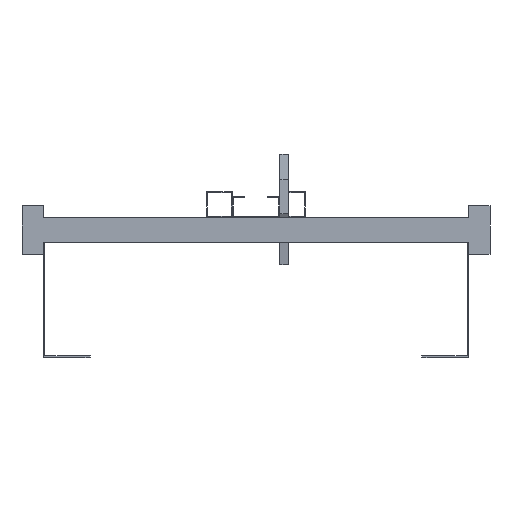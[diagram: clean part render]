
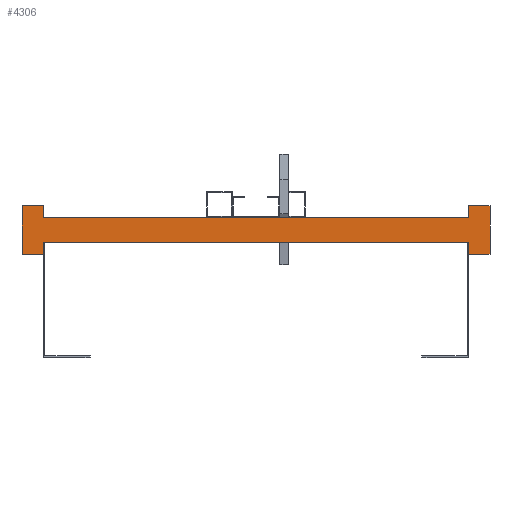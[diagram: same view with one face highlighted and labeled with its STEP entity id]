
A CAD part, front view. The second image highlights one B-rep face of the part: STEP entity #4306.
In plain terms, the highlighted planar face has unit normal (0, -1, 0).
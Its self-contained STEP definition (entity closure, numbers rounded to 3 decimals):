
#1489=DIRECTION('',(0.,0.,1.));
#1490=VECTOR('',#1489,13.5);
#1491=CARTESIAN_POINT('',(250.,0.,-28.5));
#1492=LINE('',#1491,#1490);
#1493=DIRECTION('',(0.,0.,-1.));
#1494=VECTOR('',#1493,13.5);
#1495=CARTESIAN_POINT('',(-250.,0.,-15.));
#1496=LINE('',#1495,#1494);
#1497=DIRECTION('',(-1.,0.,0.));
#1498=VECTOR('',#1497,25.);
#1499=CARTESIAN_POINT('',(-250.,0.,-28.5));
#1500=LINE('',#1499,#1498);
#1501=DIRECTION('',(0.,0.,1.));
#1502=VECTOR('',#1501,57.);
#1503=CARTESIAN_POINT('',(-275.,0.,-28.5));
#1504=LINE('',#1503,#1502);
#1505=DIRECTION('',(1.,0.,0.));
#1506=VECTOR('',#1505,25.);
#1507=CARTESIAN_POINT('',(-275.,0.,28.5));
#1508=LINE('',#1507,#1506);
#1509=DIRECTION('',(0.,0.,-1.));
#1510=VECTOR('',#1509,13.5);
#1511=CARTESIAN_POINT('',(-250.,0.,28.5));
#1512=LINE('',#1511,#1510);
#1513=DIRECTION('',(0.,0.,1.));
#1514=VECTOR('',#1513,13.5);
#1515=CARTESIAN_POINT('',(250.,0.,15.));
#1516=LINE('',#1515,#1514);
#1517=DIRECTION('',(1.,0.,0.));
#1518=VECTOR('',#1517,25.);
#1519=CARTESIAN_POINT('',(250.,0.,28.5));
#1520=LINE('',#1519,#1518);
#1521=DIRECTION('',(0.,0.,-1.));
#1522=VECTOR('',#1521,57.);
#1523=CARTESIAN_POINT('',(275.,0.,28.5));
#1524=LINE('',#1523,#1522);
#1525=DIRECTION('',(-1.,0.,0.));
#1526=VECTOR('',#1525,25.);
#1527=CARTESIAN_POINT('',(275.,0.,-28.5));
#1528=LINE('',#1527,#1526);
#1529=DIRECTION('',(1.,0.,0.));
#1530=VECTOR('',#1529,500.);
#1531=CARTESIAN_POINT('',(-250.,0.,-15.));
#1532=LINE('',#1531,#1530);
#1541=DIRECTION('',(1.,0.,0.));
#1542=VECTOR('',#1541,500.);
#1543=CARTESIAN_POINT('',(-250.,0.,15.));
#1544=LINE('',#1543,#1542);
#1761=CARTESIAN_POINT('',(-275.,0.,28.5));
#1762=CARTESIAN_POINT('',(-250.,0.,28.5));
#1763=VERTEX_POINT('',#1761);
#1764=VERTEX_POINT('',#1762);
#1765=CARTESIAN_POINT('',(-250.,0.,-28.5));
#1766=CARTESIAN_POINT('',(-275.,0.,-28.5));
#1767=VERTEX_POINT('',#1765);
#1768=VERTEX_POINT('',#1766);
#1769=CARTESIAN_POINT('',(275.,0.,28.5));
#1770=CARTESIAN_POINT('',(275.,0.,-28.5));
#1771=VERTEX_POINT('',#1769);
#1772=VERTEX_POINT('',#1770);
#1773=CARTESIAN_POINT('',(250.,0.,-28.5));
#1774=VERTEX_POINT('',#1773);
#1775=CARTESIAN_POINT('',(250.,0.,28.5));
#1776=VERTEX_POINT('',#1775);
#1793=CARTESIAN_POINT('',(-250.,0.,-15.));
#1795=VERTEX_POINT('',#1793);
#1797=CARTESIAN_POINT('',(-250.,0.,15.));
#1799=VERTEX_POINT('',#1797);
#1801=CARTESIAN_POINT('',(250.,0.,-15.));
#1803=VERTEX_POINT('',#1801);
#1805=CARTESIAN_POINT('',(250.,0.,15.));
#1807=VERTEX_POINT('',#1805);
#4281=CARTESIAN_POINT('',(0.,0.,0.));
#4282=DIRECTION('',(0.,1.,0.));
#4283=DIRECTION('',(1.,0.,0.));
#4284=AXIS2_PLACEMENT_3D('',#4281,#4282,#4283);
#4285=PLANE('',#4284);
#4286=ORIENTED_EDGE('',*,*,#2701,.T.);
#4288=ORIENTED_EDGE('',*,*,#4287,.F.);
#4289=ORIENTED_EDGE('',*,*,#2435,.T.);
#4290=ORIENTED_EDGE('',*,*,#2330,.T.);
#4292=ORIENTED_EDGE('',*,*,#4291,.T.);
#4294=ORIENTED_EDGE('',*,*,#4293,.T.);
#4295=ORIENTED_EDGE('',*,*,#2443,.T.);
#4297=ORIENTED_EDGE('',*,*,#4296,.T.);
#4298=ORIENTED_EDGE('',*,*,#2693,.T.);
#4300=ORIENTED_EDGE('',*,*,#4299,.T.);
#4302=ORIENTED_EDGE('',*,*,#4301,.T.);
#4303=ORIENTED_EDGE('',*,*,#3743,.T.);
#4304=EDGE_LOOP('',(#4286,#4288,#4289,#4290,#4292,#4294,#4295,#4297,#4298,#4300,
#4302,#4303));
#4305=FACE_OUTER_BOUND('',#4304,.F.);
#2330=EDGE_CURVE('',#1767,#1768,#1500,.T.);
#2435=EDGE_CURVE('',#1795,#1767,#1496,.T.);
#2443=EDGE_CURVE('',#1764,#1799,#1512,.T.);
#2693=EDGE_CURVE('',#1807,#1776,#1516,.T.);
#2701=EDGE_CURVE('',#1774,#1803,#1492,.T.);
#3743=EDGE_CURVE('',#1772,#1774,#1528,.T.);
#4287=EDGE_CURVE('',#1795,#1803,#1532,.T.);
#4291=EDGE_CURVE('',#1768,#1763,#1504,.T.);
#4293=EDGE_CURVE('',#1763,#1764,#1508,.T.);
#4296=EDGE_CURVE('',#1799,#1807,#1544,.T.);
#4299=EDGE_CURVE('',#1776,#1771,#1520,.T.);
#4301=EDGE_CURVE('',#1771,#1772,#1524,.T.);
#4306=ADVANCED_FACE('',(#4305),#4285,.F.);
